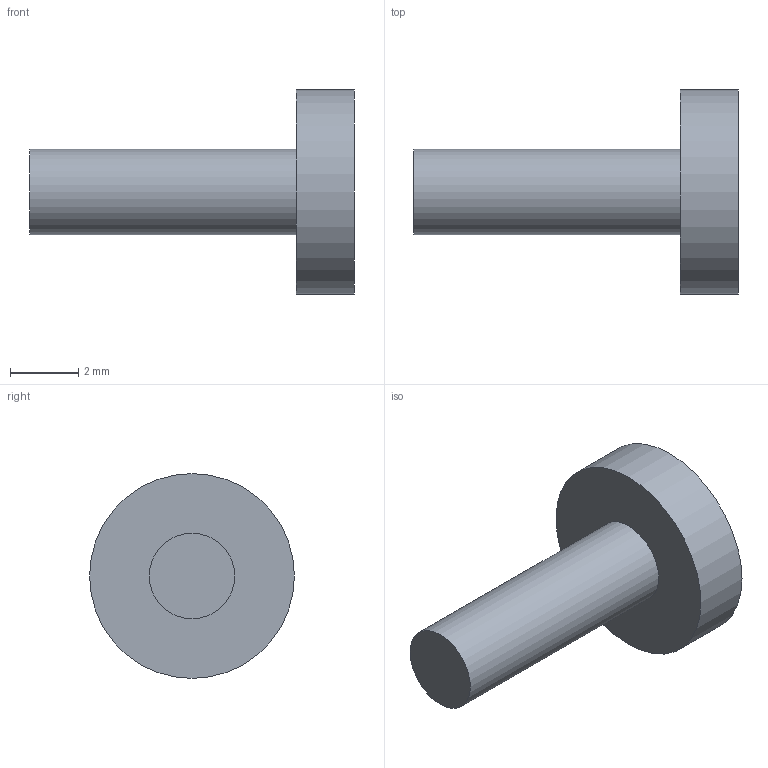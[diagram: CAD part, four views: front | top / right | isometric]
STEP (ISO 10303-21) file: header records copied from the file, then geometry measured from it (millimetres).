
FILE_DESCRIPTION(('Open CASCADE Model'),'2;1');
FILE_NAME('B3_R12_case_mount_M3_1','2026-09-28T18:17:14',('Author'),( 'Open CASCADE'),'Open CASCADE STEP processor 7.9','build123d', 'Unknown');
FILE_SCHEMA(('AUTOMOTIVE_DESIGN { 1 0 10303 214 1 1 1 1 }'));
Length unit declared in the file: millimetre
Products named in the file (1): B3_R12_case_mount_M3_1
Bounding box: 9.5 x 6 x 6 mm (x, y, z)
Volume: 80.7 mm3; surface area: 159.6 mm2
Topology: 1 solids, 1 shells, 12 faces, 24 edges, 16 vertices
Faces by surface type: plane 10, cylinder 2
Full cylindrical faces by diameter (mm): 2.5 x1, 6 x1
Entity records: 633 total; most frequent: CARTESIAN_POINT 113, DIRECTION 90, LINE 52, VECTOR 52, ORIENTED_EDGE 48, PCURVE 48, DEFINITIONAL_REPRESENTATION 48, EDGE_CURVE 24
